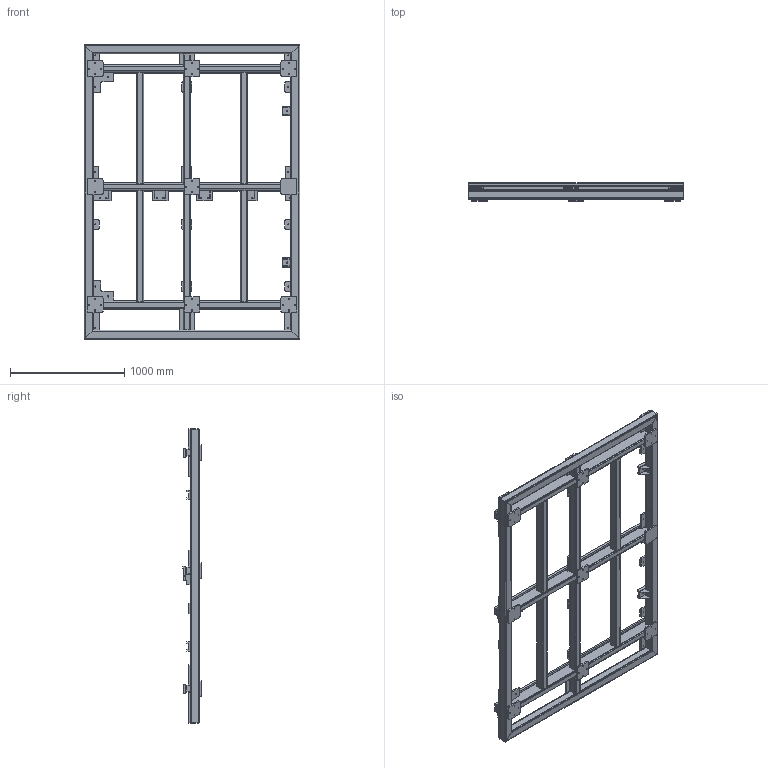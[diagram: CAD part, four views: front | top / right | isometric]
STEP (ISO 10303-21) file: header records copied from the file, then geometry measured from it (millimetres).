
FILE_DESCRIPTION(('STEP AP203'), '1');
FILE_NAME('ÒÏÏÔ1800.01.02.22.000 - Îñíîâàíèå çîíû îáñëóæèâàíèÿ', '', ('UNSPECIFIED'), ('UNSPECIFIED'), 'C3D Converter', 'C3D Toolkit', '');
FILE_SCHEMA(('CONFIG_CONTROL_DESIGN'));
Length unit declared in the file: millimetre
Products named in the file (52): ТППФ1800.01.02.22.000; ТППФ1800.01.02.22.021; ТППФ1800.01.02.22.002; ТППФ1800.01.02.22.001; ТППФ1800.01.02.22.003; ТППФ1800.01.02.22.004; ТППФ1800.01.02.22.005; ТППФ1800.01.02.22.006; ТППФ1800.01.02.22.007; ТППФ1800.01.02.22.009; ТППФ1800.01.02.22.011; ТППФ1800.01.02.22.013; ТППФ1800.01.02.22.014; ТППФ1800.01.02.22.015; ТППФ1800.01.02.21.017; ТППФ1800.01.02.22.008; ТППФ1800.01.02.22.017; ТППФ1800.01.02.21.021; ТППФ1800.01.02.22.018; ТППФ1800.01.02.22.019; ТППФ1800.01.02.21.018; ТППФ1800.01.02.21.026; ТППФ1800.01.02.21.025; ТППФ1800.01.02.21.027; ТППФ1800.01.02.21.013; ТППФ1800.01.02.22.011-01
Assembly tree (68 placements, depth 2):
  ТППФ1800.01.02.22.000
    ТППФ1800.01.02.22.021
    ТППФ1800.01.02.22.002
    ТППФ1800.01.02.22.001
    ТППФ1800.01.02.22.002
    ТППФ1800.01.02.22.003
    ТППФ1800.01.02.22.003
    ТППФ1800.01.02.22.003
    ТППФ1800.01.02.22.004
    ТППФ1800.01.02.22.005
    ТППФ1800.01.02.22.005
    ТППФ1800.01.02.22.006
    ТППФ1800.01.02.22.005  x3
    ТППФ1800.01.02.22.005
    ТППФ1800.01.02.22.007
    ТППФ1800.01.02.22.009
    ТППФ1800.01.02.22.011
    ТППФ1800.01.02.22.013
    ТППФ1800.01.02.22.014
    ТППФ1800.01.02.22.015
    ТППФ1800.01.02.21.017
    ТППФ1800.01.02.21.017
    ТППФ1800.01.02.21.017
    ТППФ1800.01.02.21.017
    ТППФ1800.01.02.21.017
    ТППФ1800.01.02.21.017
    ТППФ1800.01.02.21.017
    ТППФ1800.01.02.21.017
    ТППФ1800.01.02.21.017
    ТППФ1800.01.02.22.008
    ТППФ1800.01.02.22.017  x2
    ТППФ1800.01.02.21.021
    ТППФ1800.01.02.21.021
    ТППФ1800.01.02.21.021
    ТППФ1800.01.02.22.018
    ТППФ1800.01.02.22.019
    ТППФ1800.01.02.22.014
    ТППФ1800.01.02.22.014
    ТППФ1800.01.02.21.018  x6
    ТППФ1800.01.02.21.026  x2
    ТППФ1800.01.02.21.025  x6
    ТППФ1800.01.02.21.027  x4
    ТППФ1800.01.02.21.013
    ТППФ1800.01.02.21.013
    ТППФ1800.01.02.21.013
    ТППФ1800.01.02.22.011-01
    ТППФ1800.01.02.22.007
    ТППФ1800.01.02.22.007
    ТППФ1800.01.02.22.009
    ТППФ1800.01.02.22.009
    ТППФ1800.01.02.22.013
    ТППФ1800.01.02.22.014
Bounding box: 1890 x 158 x 2581 mm (x, y, z)
Volume: 46467757.6 mm3; surface area: 14533146.7 mm2
Topology: 68 solids, 68 shells, 1123 faces, 2956 edges, 1960 vertices
Faces by surface type: plane 613, cylinder 478, cone 32
Full cylindrical faces by diameter (mm): 6.647 x32, 10.106 x114, 10.5 x79, 25 x8
Entity records: 35395 total; most frequent: CARTESIAN_POINT 5188, DIRECTION 5059, ORIENTED_EDGE 4550, EDGE_CURVE 2275, AXIS2_PLACEMENT_3D 1841, VERTEX_POINT 1666, EDGE_LOOP 1615, LINE 1377
